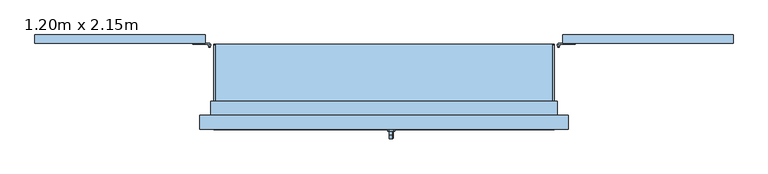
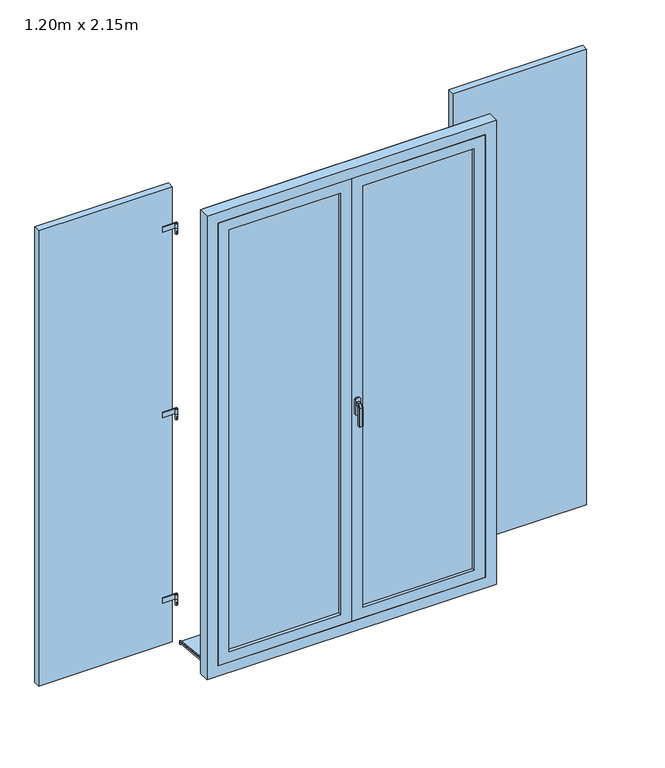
"""IFC4 building model written with IfcOpenShell, lengths in millimetres: window geometry, PF 2 Vantaux droits - Volets et petits bois : 1.20m x 2.15m."""

from ifc_helpers import new_model, si_unit, point, frame, frame_2d, origin, place, context, project, spatial, polyline, circle_curve, trimmed, segment, composite_curve, outline, extrude, faceted_brep, source, transform, mapped, element, save
from ifc_brep_helpers import plane_surface, cylinder_surface, advanced_brep


def window_1_20m_x_2_15m_cfff8fc0(model_context):
    return source(origin(), model_context, "Body", "SolidModel", [
        extrude(outline(polyline([(-1230.0, 158.0), (-1230.0, 188.0), (-630.0, 188.0), (-630.0, 158.0), (-1230.0, 158.0)])), frame((0.0, 0.0, 25.0), z_axis=(0.0, 0.0, 1.0), x_axis=(1.0, 0.0, 0.0)), (0.0, 0.0, 1.0), 2160.0),
        advanced_brep(
        [(-610.0, 153.0, 225.0), (-620.0, 153.0, 225.0), (-610.0, 153.0, 200.0), (-620.0, 153.0, 200.0), (-617.0, 148.4174243, 205.0), (-617.0, 148.4174243, 215.0), (-613.0, 148.4174243, 215.0), (-613.0, 148.4174243, 205.0), (-613.0, 145.0, 215.0), (-617.0, 145.0, 215.0), (-617.0, 145.0, 205.0), (-613.0, 145.0, 205.0)],
        [
            (0, 1, circle_curve(frame((-615.0, 153.0, 225.0), z_axis=(0.0, 0.0, 1.0), x_axis=(-1.0, 0.0, 0.0)), 5.0)),
            (1, 0, circle_curve(frame((-615.0, 153.0, 225.0), z_axis=(0.0, 0.0, 1.0), x_axis=(-1.0, 0.0, 0.0)), 5.0)),
            (2, 3, circle_curve(frame((-615.0, 153.0, 200.0), z_axis=(0.0, 0.0, -1.0), x_axis=(-1.0, 0.0, 0.0)), 5.0)),
            (3, 2, circle_curve(frame((-615.0, 153.0, 200.0), z_axis=(0.0, 0.0, -1.0), x_axis=(-1.0, 0.0, 0.0)), 5.0)),
            (1, 3),
            (2, 0),
            (4, 5),
            (5, 6, circle_curve(frame((-615.0, 153.0, 215.0), z_axis=(0.0, 0.0, 1.0), x_axis=(-1.0, 0.0, 0.0)), 5.0)),
            (6, 7),
            (7, 4, circle_curve(frame((-615.0, 153.0, 205.0), z_axis=(0.0, 0.0, -1.0), x_axis=(-1.0, 0.0, 0.0)), 5.0)),
            (8, 6),
            (5, 9),
            (9, 8),
            (10, 4),
            (7, 11),
            (11, 10),
            (10, 9),
            (8, 11),
        ],
        [
            plane_surface(frame((-620.0, 153.0, 225.0), z_axis=(0.0, 0.0, 1.0), x_axis=(0.0, 1.0, 0.0))),
            plane_surface(frame((-620.0, 153.0, 200.0), z_axis=(0.0, 0.0, -1.0), x_axis=(0.0, -1.0, 0.0))),
            cylinder_surface(frame((-615.0, 153.0, 200.0), z_axis=(0.0, 0.0, 1.0), x_axis=(-1.0, 0.0, 0.0)), 5.0),
            plane_surface(frame((-617.0, 145.0, 215.0), z_axis=(0.0, 0.0, 1.0), x_axis=(0.0, 1.0, 0.0))),
            plane_surface(frame((-617.0, 145.0, 205.0), z_axis=(0.0, 0.0, -1.0), x_axis=(0.0, -1.0, 0.0))),
            plane_surface(frame((-617.0, 145.0, 215.0), z_axis=(-1.0, 0.0, 0.0), x_axis=(0.0, 0.0, -1.0))),
            plane_surface(frame((-613.0, 150.0, 215.0), z_axis=(1.0, 0.0, 0.0), x_axis=(0.0, 0.0, -1.0))),
            plane_surface(frame((-613.0, 145.0, 215.0), z_axis=(0.0, -1.0, 0.0), x_axis=(0.0, 0.0, -1.0))),
        ],
        [
            (0, [[1, 2]]),
            (1, [[3, 4]]),
            (2, [[5, -3, 6, -2], [7, 8, 9, 10]]),
            (2, [[-6, -4, -5, -1]]),
            (3, [[11, -8, 12, 13]]),
            (4, [[14, -10, 15, 16]]),
            (5, [[-12, -7, -14, 17]]),
            (6, [[-15, -9, -11, 18]]),
            (7, [[-17, -16, -18, -13]]),
        ],
    ),
        extrude(outline(composite_curve([segment(trimmed(circle_curve(frame_2d((-615.0, 153.0)), 5.0), [point((-615.0, 158.0))], [point((-620.0, 153.0))], False, "CARTESIAN"), True, "CONTINUOUS"), segment(polyline([(-620.0, 153.0), (-617.5, 153.0)]), True, "CONTINUOUS"), segment(trimmed(circle_curve(frame_2d((-615.0, 153.0)), 2.5), [point((-617.5, 153.0))], [point((-615.0, 155.5))], True, "CARTESIAN"), True, "CONTINUOUS"), segment(polyline([(-615.0, 155.5), (-674.3092325, 155.5), (-674.3092325, 158.0), (-615.0, 158.0)]), True, "CONTINUOUS")], self_intersect=False)), frame((0.0, 0.0, 225.0), z_axis=(0.0, 0.0, 1.0), x_axis=(1.0, 0.0, 0.0)), (0.0, 0.0, 1.0), 25.0),
        extrude(outline(composite_curve([segment(trimmed(circle_curve(frame_2d((-615.0, 153.0)), 2.5), [point((-612.5, 153.0))], [point((-617.5, 153.0))], False, "CARTESIAN"), True, "CONTINUOUS"), segment(trimmed(circle_curve(frame_2d((-615.0, 153.0)), 2.5), [point((-617.5, 153.0))], [point((-612.5, 153.0))], False, "CARTESIAN"), True, "CONTINUOUS")], self_intersect=False)), frame((0.0, 0.0, 225.0), z_axis=(0.0, 0.0, 1.0), x_axis=(1.0, 0.0, 0.0)), (0.0, 0.0, 1.0), 25.0),
        advanced_brep(
        [(-610.0, 153.0, 1985.0), (-620.0, 153.0, 1985.0), (-610.0, 153.0, 1960.0), (-620.0, 153.0, 1960.0), (-613.0, 148.4174243, 1975.0), (-613.0, 148.4174243, 1965.0), (-617.0, 148.4174243, 1965.0), (-617.0, 148.4174243, 1975.0), (-613.0, 145.0, 1975.0), (-617.0, 145.0, 1975.0), (-613.0, 145.0, 1965.0), (-617.0, 145.0, 1965.0)],
        [
            (0, 1, circle_curve(frame((-615.0, 153.0, 1985.0), z_axis=(0.0, 0.0, 1.0), x_axis=(-1.0, 0.0, 0.0)), 5.0)),
            (1, 0, circle_curve(frame((-615.0, 153.0, 1985.0), z_axis=(0.0, 0.0, 1.0), x_axis=(-1.0, 0.0, 0.0)), 5.0)),
            (2, 3, circle_curve(frame((-615.0, 153.0, 1960.0), z_axis=(0.0, 0.0, -1.0), x_axis=(-1.0, 0.0, 0.0)), 5.0)),
            (3, 2, circle_curve(frame((-615.0, 153.0, 1960.0), z_axis=(0.0, 0.0, -1.0), x_axis=(-1.0, 0.0, 0.0)), 5.0)),
            (1, 3),
            (2, 0),
            (4, 5),
            (5, 6, circle_curve(frame((-615.0, 153.0, 1965.0), z_axis=(0.0, 0.0, -1.0), x_axis=(-1.0, 0.0, 0.0)), 5.0)),
            (6, 7),
            (7, 4, circle_curve(frame((-615.0, 153.0, 1975.0), z_axis=(0.0, 0.0, 1.0), x_axis=(-1.0, 0.0, 0.0)), 5.0)),
            (8, 4),
            (7, 9),
            (9, 8),
            (10, 11),
            (11, 6),
            (5, 10),
            (9, 11),
            (10, 8),
        ],
        [
            plane_surface(frame((-620.0, 153.0, 1985.0), z_axis=(0.0, 0.0, 1.0), x_axis=(0.0, 1.0, 0.0))),
            plane_surface(frame((-620.0, 153.0, 1960.0), z_axis=(0.0, 0.0, -1.0), x_axis=(0.0, -1.0, 0.0))),
            cylinder_surface(frame((-615.0, 153.0, 1960.0), z_axis=(0.0, 0.0, 1.0), x_axis=(-1.0, 0.0, 0.0)), 5.0),
            plane_surface(frame((-613.0, 145.0, 1975.0), z_axis=(0.0, 0.0, 1.0), x_axis=(-1.0, 0.0, 0.0))),
            plane_surface(frame((-613.0, 145.0, 1965.0), z_axis=(0.0, 0.0, -1.0), x_axis=(1.0, 0.0, 0.0))),
            plane_surface(frame((-613.0, 145.0, 1975.0), z_axis=(0.0, -1.0, 0.0), x_axis=(0.0, 0.0, -1.0))),
            plane_surface(frame((-617.0, 145.0, 1975.0), z_axis=(-1.0, 0.0, 0.0), x_axis=(0.0, 0.0, -1.0))),
            plane_surface(frame((-613.0, 148.4174243, 1975.0), z_axis=(1.0, 0.0, 0.0), x_axis=(0.0, 0.0, -1.0))),
        ],
        [
            (0, [[1, 2]]),
            (1, [[3, 4]]),
            (2, [[5, -3, 6, -2], [7, 8, 9, 10]]),
            (2, [[-6, -4, -5, -1]]),
            (3, [[11, -10, 12, 13]]),
            (4, [[14, 15, -8, 16]]),
            (5, [[17, -14, 18, -13]]),
            (6, [[-9, -15, -17, -12]]),
            (7, [[-18, -16, -7, -11]]),
        ],
    ),
        extrude(outline(polyline([(-613.0, 145.0), (-617.0, 145.0), (-617.0, 148.4174243), (-613.0, 148.4174243), (-613.0, 145.0)])), frame((0.0, 0.0, 1085.0), z_axis=(0.0, 0.0, 1.0), x_axis=(1.0, 0.0, 0.0)), (0.0, 0.0, 1.0), 10.0),
        extrude(outline(composite_curve([segment(trimmed(circle_curve(frame_2d((-615.0, 153.0)), 5.0), [point((-615.0, 158.0))], [point((-620.0, 153.0))], False, "CARTESIAN"), True, "CONTINUOUS"), segment(polyline([(-620.0, 153.0), (-617.5, 153.0)]), True, "CONTINUOUS"), segment(trimmed(circle_curve(frame_2d((-615.0, 153.0)), 2.5), [point((-617.5, 153.0))], [point((-612.5, 153.0))], True, "CARTESIAN"), True, "CONTINUOUS"), segment(trimmed(circle_curve(frame_2d((-615.0, 153.0)), 2.5), [point((-612.5, 153.0))], [point((-615.0, 155.5))], True, "CARTESIAN"), True, "CONTINUOUS"), segment(polyline([(-615.0, 155.5), (-674.3092325, 155.5), (-674.3092325, 158.0), (-615.0, 158.0)]), True, "CONTINUOUS")], self_intersect=False)), frame((0.0, 0.0, 1105.0), z_axis=(0.0, 0.0, 1.0), x_axis=(1.0, 0.0, 0.0)), (0.0, 0.0, 1.0), 25.0),
        extrude(outline(composite_curve([segment(trimmed(circle_curve(frame_2d((-615.0, 153.0)), 2.5), [point((-612.5, 153.0))], [point((-617.5, 153.0))], False, "CARTESIAN"), True, "CONTINUOUS"), segment(trimmed(circle_curve(frame_2d((-615.0, 153.0)), 2.5), [point((-617.5, 153.0))], [point((-612.5, 153.0))], False, "CARTESIAN"), True, "CONTINUOUS")], self_intersect=False)), frame((0.0, 0.0, 1105.0), z_axis=(0.0, 0.0, 1.0), x_axis=(1.0, 0.0, 0.0)), (0.0, 0.0, 1.0), 25.0),
        extrude(outline(composite_curve([segment(trimmed(circle_curve(frame_2d((-615.0, 153.0)), 5.0), [point((-610.0, 153.0))], [point((-620.0, 153.0))], False, "CARTESIAN"), True, "CONTINUOUS"), segment(trimmed(circle_curve(frame_2d((-615.0, 153.0)), 5.0), [point((-620.0, 153.0))], [point((-610.0, 153.0))], False, "CARTESIAN"), True, "CONTINUOUS")], self_intersect=False)), frame((0.0, 0.0, 1080.0), z_axis=(0.0, 0.0, 1.0), x_axis=(1.0, 0.0, 0.0)), (0.0, 0.0, 1.0), 25.0),
        extrude(outline(composite_curve([segment(trimmed(circle_curve(frame_2d((-615.0, 153.0)), 5.0), [point((-615.0, 158.0))], [point((-620.0, 153.0))], False, "CARTESIAN"), True, "CONTINUOUS"), segment(polyline([(-620.0, 153.0), (-617.5, 153.0)]), True, "CONTINUOUS"), segment(trimmed(circle_curve(frame_2d((-615.0, 153.0)), 2.5), [point((-617.5, 153.0))], [point((-615.0, 155.5))], True, "CARTESIAN"), True, "CONTINUOUS"), segment(polyline([(-615.0, 155.5), (-674.3092325, 155.5), (-674.3092325, 158.0), (-615.0, 158.0)]), True, "CONTINUOUS")], self_intersect=False)), frame((0.0, 0.0, 1985.0), z_axis=(0.0, 0.0, 1.0), x_axis=(1.0, 0.0, 0.0)), (0.0, 0.0, 1.0), 25.0),
        extrude(outline(composite_curve([segment(trimmed(circle_curve(frame_2d((-615.0, 153.0)), 2.5), [point((-612.5, 153.0))], [point((-617.5, 153.0))], False, "CARTESIAN"), True, "CONTINUOUS"), segment(trimmed(circle_curve(frame_2d((-615.0, 153.0)), 2.5), [point((-617.5, 153.0))], [point((-612.5, 153.0))], False, "CARTESIAN"), True, "CONTINUOUS")], self_intersect=False)), frame((0.0, 0.0, 1985.0), z_axis=(0.0, 0.0, 1.0), x_axis=(1.0, 0.0, 0.0)), (0.0, 0.0, 1.0), 25.0),
        extrude(outline(polyline([(1230.0, 158.0), (630.0, 158.0), (630.0, 188.0), (1230.0, 188.0), (1230.0, 158.0)])), frame((0.0, 0.0, 25.0), z_axis=(0.0, 0.0, 1.0), x_axis=(1.0, 0.0, 0.0)), (0.0, 0.0, 1.0), 2160.0),
        advanced_brep(
        [(610.0, 153.0, 225.0), (620.0, 153.0, 225.0), (610.0, 153.0, 200.0), (620.0, 153.0, 200.0), (617.0, 148.4174243, 205.0), (613.0, 148.4174243, 205.0), (613.0, 148.4174243, 215.0), (617.0, 148.4174243, 215.0), (613.0, 145.0, 215.0), (617.0, 145.0, 215.0), (617.0, 145.0, 205.0), (613.0, 145.0, 205.0)],
        [
            (0, 1, circle_curve(frame((615.0, 153.0, 225.0), z_axis=(0.0, 0.0, 1.0), x_axis=(1.0, 0.0, 0.0)), 5.0)),
            (1, 0, circle_curve(frame((615.0, 153.0, 225.0), z_axis=(0.0, 0.0, 1.0), x_axis=(1.0, 0.0, 0.0)), 5.0)),
            (2, 3, circle_curve(frame((615.0, 153.0, 200.0), z_axis=(0.0, 0.0, -1.0), x_axis=(1.0, 0.0, 0.0)), 5.0)),
            (3, 2, circle_curve(frame((615.0, 153.0, 200.0), z_axis=(0.0, 0.0, -1.0), x_axis=(1.0, 0.0, 0.0)), 5.0)),
            (0, 2),
            (3, 1),
            (4, 5, circle_curve(frame((615.0, 153.0, 205.0), z_axis=(0.0, 0.0, -1.0), x_axis=(1.0, 0.0, 0.0)), 5.0)),
            (5, 6),
            (6, 7, circle_curve(frame((615.0, 153.0, 215.0), z_axis=(0.0, 0.0, 1.0), x_axis=(1.0, 0.0, 0.0)), 5.0)),
            (7, 4),
            (8, 9),
            (9, 7),
            (6, 8),
            (10, 11),
            (11, 5),
            (4, 10),
            (9, 10),
            (11, 8),
        ],
        [
            plane_surface(frame((620.0, 153.0, 225.0), z_axis=(0.0, 0.0, 1.0), x_axis=(0.0, 1.0, 0.0))),
            plane_surface(frame((620.0, 153.0, 200.0), z_axis=(0.0, 0.0, -1.0), x_axis=(0.0, -1.0, 0.0))),
            cylinder_surface(frame((615.0, 153.0, 200.0), z_axis=(0.0, 0.0, 1.0), x_axis=(1.0, 0.0, 0.0)), 5.0),
            plane_surface(frame((617.0, 145.0, 215.0), z_axis=(0.0, 0.0, 1.0), x_axis=(0.0, 1.0, 0.0))),
            plane_surface(frame((617.0, 145.0, 205.0), z_axis=(0.0, 0.0, -1.0), x_axis=(0.0, -1.0, 0.0))),
            plane_surface(frame((617.0, 145.0, 215.0), z_axis=(1.0, 0.0, 0.0), x_axis=(0.0, 0.0, -1.0))),
            plane_surface(frame((613.0, 150.0, 215.0), z_axis=(-1.0, 0.0, 0.0), x_axis=(0.0, 0.0, -1.0))),
            plane_surface(frame((613.0, 145.0, 215.0), z_axis=(0.0, -1.0, 0.0), x_axis=(0.0, 0.0, -1.0))),
        ],
        [
            (0, [[1, 2]]),
            (1, [[3, 4]]),
            (2, [[-1, 5, -4, 6], [7, 8, 9, 10]]),
            (2, [[-2, -6, -3, -5]]),
            (3, [[11, 12, -9, 13]]),
            (4, [[14, 15, -7, 16]]),
            (5, [[17, -16, -10, -12]]),
            (6, [[18, -13, -8, -15]]),
            (7, [[-11, -18, -14, -17]]),
        ],
    ),
        extrude(outline(composite_curve([segment(polyline([(615.0, 158.0), (674.3092325, 158.0), (674.3092325, 155.5), (615.0, 155.5)]), True, "CONTINUOUS"), segment(trimmed(circle_curve(frame_2d((615.0, 153.0)), 2.5), [point((615.0, 155.5))], [point((617.5, 153.0))], True, "CARTESIAN"), True, "CONTINUOUS"), segment(polyline([(617.5, 153.0), (620.0, 153.0)]), True, "CONTINUOUS"), segment(trimmed(circle_curve(frame_2d((615.0, 153.0)), 5.0), [point((620.0, 153.0))], [point((615.0, 158.0))], False, "CARTESIAN"), True, "CONTINUOUS")], self_intersect=False)), frame((0.0, 0.0, 225.0), z_axis=(0.0, 0.0, 1.0), x_axis=(1.0, 0.0, 0.0)), (0.0, 0.0, 1.0), 25.0),
        extrude(outline(composite_curve([segment(trimmed(circle_curve(frame_2d((615.0, 153.0)), 2.5), [point((612.5, 153.0))], [point((617.5, 153.0))], False, "CARTESIAN"), True, "CONTINUOUS"), segment(trimmed(circle_curve(frame_2d((615.0, 153.0)), 2.5), [point((617.5, 153.0))], [point((612.5, 153.0))], False, "CARTESIAN"), True, "CONTINUOUS")], self_intersect=False)), frame((0.0, 0.0, 225.0), z_axis=(0.0, 0.0, 1.0), x_axis=(1.0, 0.0, 0.0)), (0.0, 0.0, 1.0), 25.0),
        advanced_brep(
        [(610.0, 153.0, 1985.0), (620.0, 153.0, 1985.0), (610.0, 153.0, 1960.0), (620.0, 153.0, 1960.0), (613.0, 148.4174243, 1975.0), (617.0, 148.4174243, 1975.0), (617.0, 148.4174243, 1965.0), (613.0, 148.4174243, 1965.0), (613.0, 145.0, 1975.0), (617.0, 145.0, 1975.0), (613.0, 145.0, 1965.0), (617.0, 145.0, 1965.0)],
        [
            (0, 1, circle_curve(frame((615.0, 153.0, 1985.0), z_axis=(0.0, 0.0, 1.0), x_axis=(1.0, 0.0, 0.0)), 5.0)),
            (1, 0, circle_curve(frame((615.0, 153.0, 1985.0), z_axis=(0.0, 0.0, 1.0), x_axis=(1.0, 0.0, 0.0)), 5.0)),
            (2, 3, circle_curve(frame((615.0, 153.0, 1960.0), z_axis=(0.0, 0.0, -1.0), x_axis=(1.0, 0.0, 0.0)), 5.0)),
            (3, 2, circle_curve(frame((615.0, 153.0, 1960.0), z_axis=(0.0, 0.0, -1.0), x_axis=(1.0, 0.0, 0.0)), 5.0)),
            (0, 2),
            (3, 1),
            (4, 5, circle_curve(frame((615.0, 153.0, 1975.0), z_axis=(0.0, 0.0, 1.0), x_axis=(1.0, 0.0, 0.0)), 5.0)),
            (5, 6),
            (6, 7, circle_curve(frame((615.0, 153.0, 1965.0), z_axis=(0.0, 0.0, -1.0), x_axis=(1.0, 0.0, 0.0)), 5.0)),
            (7, 4),
            (8, 9),
            (9, 5),
            (4, 8),
            (10, 7),
            (6, 11),
            (11, 10),
            (8, 10),
            (11, 9),
        ],
        [
            plane_surface(frame((620.0, 153.0, 1985.0), z_axis=(0.0, 0.0, 1.0), x_axis=(0.0, 1.0, 0.0))),
            plane_surface(frame((620.0, 153.0, 1960.0), z_axis=(0.0, 0.0, -1.0), x_axis=(0.0, -1.0, 0.0))),
            cylinder_surface(frame((615.0, 153.0, 1960.0), z_axis=(0.0, 0.0, 1.0), x_axis=(1.0, 0.0, 0.0)), 5.0),
            plane_surface(frame((613.0, 145.0, 1975.0), z_axis=(0.0, 0.0, 1.0), x_axis=(1.0, 0.0, 0.0))),
            plane_surface(frame((613.0, 145.0, 1965.0), z_axis=(0.0, 0.0, -1.0), x_axis=(-1.0, 0.0, 0.0))),
            plane_surface(frame((613.0, 145.0, 1975.0), z_axis=(0.0, -1.0, 0.0), x_axis=(0.0, 0.0, -1.0))),
            plane_surface(frame((617.0, 145.0, 1975.0), z_axis=(1.0, 0.0, 0.0), x_axis=(0.0, 0.0, -1.0))),
            plane_surface(frame((613.0, 148.4174243, 1975.0), z_axis=(-1.0, 0.0, 0.0), x_axis=(0.0, 0.0, -1.0))),
        ],
        [
            (0, [[1, 2]]),
            (1, [[3, 4]]),
            (2, [[-1, 5, -4, 6], [7, 8, 9, 10]]),
            (2, [[-2, -6, -3, -5]]),
            (3, [[11, 12, -7, 13]]),
            (4, [[14, -9, 15, 16]]),
            (5, [[-11, 17, -16, 18]]),
            (6, [[-12, -18, -15, -8]]),
            (7, [[-13, -10, -14, -17]]),
        ],
    ),
        extrude(outline(polyline([(613.0, 145.0), (613.0, 148.4174243), (617.0, 148.4174243), (617.0, 145.0), (613.0, 145.0)])), frame((0.0, 0.0, 1085.0), z_axis=(0.0, 0.0, 1.0), x_axis=(1.0, 0.0, 0.0)), (0.0, 0.0, 1.0), 10.0),
        extrude(outline(composite_curve([segment(polyline([(615.0, 158.0), (674.3092325, 158.0), (674.3092325, 155.5), (615.0, 155.5)]), True, "CONTINUOUS"), segment(trimmed(circle_curve(frame_2d((615.0, 153.0)), 2.5), [point((615.0, 155.5))], [point((612.5, 153.0))], True, "CARTESIAN"), True, "CONTINUOUS"), segment(trimmed(circle_curve(frame_2d((615.0, 153.0)), 2.5), [point((612.5, 153.0))], [point((617.5, 153.0))], True, "CARTESIAN"), True, "CONTINUOUS"), segment(polyline([(617.5, 153.0), (620.0, 153.0)]), True, "CONTINUOUS"), segment(trimmed(circle_curve(frame_2d((615.0, 153.0)), 5.0), [point((620.0, 153.0))], [point((615.0, 158.0))], False, "CARTESIAN"), True, "CONTINUOUS")], self_intersect=False)), frame((0.0, 0.0, 1105.0), z_axis=(0.0, 0.0, 1.0), x_axis=(1.0, 0.0, 0.0)), (0.0, 0.0, 1.0), 25.0),
        extrude(outline(composite_curve([segment(trimmed(circle_curve(frame_2d((615.0, 153.0)), 2.5), [point((612.5, 153.0))], [point((617.5, 153.0))], False, "CARTESIAN"), True, "CONTINUOUS"), segment(trimmed(circle_curve(frame_2d((615.0, 153.0)), 2.5), [point((617.5, 153.0))], [point((612.5, 153.0))], False, "CARTESIAN"), True, "CONTINUOUS")], self_intersect=False)), frame((0.0, 0.0, 1105.0), z_axis=(0.0, 0.0, 1.0), x_axis=(1.0, 0.0, 0.0)), (0.0, 0.0, 1.0), 25.0),
        extrude(outline(composite_curve([segment(trimmed(circle_curve(frame_2d((615.0, 153.0)), 5.0), [point((610.0, 153.0))], [point((620.0, 153.0))], False, "CARTESIAN"), True, "CONTINUOUS"), segment(trimmed(circle_curve(frame_2d((615.0, 153.0)), 5.0), [point((620.0, 153.0))], [point((610.0, 153.0))], False, "CARTESIAN"), True, "CONTINUOUS")], self_intersect=False)), frame((0.0, 0.0, 1080.0), z_axis=(0.0, 0.0, 1.0), x_axis=(1.0, 0.0, 0.0)), (0.0, 0.0, 1.0), 25.0),
        extrude(outline(composite_curve([segment(polyline([(615.0, 158.0), (674.3092325, 158.0), (674.3092325, 155.5), (615.0, 155.5)]), True, "CONTINUOUS"), segment(trimmed(circle_curve(frame_2d((615.0, 153.0)), 2.5), [point((615.0, 155.5))], [point((617.5, 153.0))], True, "CARTESIAN"), True, "CONTINUOUS"), segment(polyline([(617.5, 153.0), (620.0, 153.0)]), True, "CONTINUOUS"), segment(trimmed(circle_curve(frame_2d((615.0, 153.0)), 5.0), [point((620.0, 153.0))], [point((615.0, 158.0))], False, "CARTESIAN"), True, "CONTINUOUS")], self_intersect=False)), frame((0.0, 0.0, 1985.0), z_axis=(0.0, 0.0, 1.0), x_axis=(1.0, 0.0, 0.0)), (0.0, 0.0, 1.0), 25.0),
        extrude(outline(composite_curve([segment(trimmed(circle_curve(frame_2d((615.0, 153.0)), 2.5), [point((612.5, 153.0))], [point((617.5, 153.0))], False, "CARTESIAN"), True, "CONTINUOUS"), segment(trimmed(circle_curve(frame_2d((615.0, 153.0)), 2.5), [point((617.5, 153.0))], [point((612.5, 153.0))], False, "CARTESIAN"), True, "CONTINUOUS")], self_intersect=False)), frame((0.0, 0.0, 1985.0), z_axis=(0.0, 0.0, 1.0), x_axis=(1.0, 0.0, 0.0)), (0.0, 0.0, 1.0), 25.0),
        faceted_brep([(30.6460097, -151.0, 1122.0339292), (32.0339292, -151.0, 1120.6460097), (32.0339292, -151.0, 1109.3323012), (30.6676988, -151.0, 1107.9660708), (19.3323012, -151.0, 1107.9660708), (17.9660708, -151.0, 1109.3323012), (17.9660708, -151.0, 1120.6460097), (19.3539903, -151.0, 1122.0339292), (30.6460097, -163.9135489, 1122.0339292), (32.0339292, -163.3386538, 1120.6460097), (32.0339292, -176.6460097, 1107.3386538), (32.0339292, -176.6460097, 1020.0), (32.0339292, -165.3323012, 1020.0), (32.0339292, -165.3323012, 1102.6523623), (32.0339292, -158.6523623, 1109.3323012), (30.6676988, -158.0864511, 1107.9660708), (19.3323012, -158.0864511, 1107.9660708), (17.9660708, -158.6523623, 1109.3323012), (17.9660708, -165.3323012, 1102.6523623), (17.9660708, -165.3323012, 1020.0), (17.9660708, -176.6460097, 1020.0), (17.9660708, -176.6460097, 1107.3386538), (17.9660708, -163.3386538, 1120.6460097), (19.3539903, -163.9135489, 1122.0339292), (30.6460097, -178.0339292, 1107.9135489), (30.6676988, -163.9660708, 1102.0864511), (19.3323012, -163.9660708, 1102.0864511), (19.3539903, -178.0339292, 1107.9135489), (30.6460097, -178.0339292, 1020.0), (19.3539903, -178.0339292, 1020.0), (19.3323012, -163.9660708, 1020.0), (30.6676988, -163.9660708, 1020.0)], [[[0, 1, 2, 3, 4, 5, 6, 7]], [[1, 0, 8, 9]], [[2, 1, 9, 10, 11, 12, 13, 14]], [[3, 2, 14, 15]], [[4, 3, 15, 16]], [[5, 4, 16, 17]], [[6, 5, 17, 18, 19, 20, 21, 22]], [[7, 6, 22, 23]], [[0, 7, 23, 8]], [[9, 8, 24, 10]], [[15, 14, 13, 25]], [[16, 15, 25, 26]], [[17, 16, 26, 18]], [[23, 22, 21, 27]], [[8, 23, 27, 24]], [[28, 29, 20, 19, 30, 31, 12, 11]], [[10, 24, 28, 11]], [[25, 13, 12, 31]], [[26, 25, 31, 30]], [[18, 26, 30, 19]], [[27, 21, 20, 29]], [[24, 27, 29, 28]]]),
        extrude(outline(polyline([(1140.0, 32.0), (1140.0, 18.0), (1135.0, 13.0), (1065.0, 13.0), (1060.0, 18.0), (1060.0, 32.0), (1065.0, 37.0), (1135.0, 37.0), (1140.0, 32.0)])), frame((0.0, -151.0, 0.0), z_axis=(0.0, 1.0, 0.0), x_axis=(0.0, 0.0, 1.0)), (0.0, 0.0, 1.0), 6.0),
        extrude(outline(polyline([(155.0288776, 17.1292448), (155.0288776, 6.0510424), (150.0288776, 6.5765635), (150.0288776, 12.3995543), (-65.0, 35.0), (-65.0, 50.0), (-60.0, 50.0), (-60.0, 39.7296906), (155.0288776, 17.1292448)])), frame((-600.0, 0.0, 0.0), z_axis=(1.0, 0.0, 0.0), x_axis=(0.0, 1.0, 0.0)), (0.0, 0.0, 1.0), 1200.0),
        extrude(outline(composite_curve([segment(polyline([(155.0288776, 17.1292448), (-60.0, 39.7296906), (-60.0, 44.757232), (151.4469915, 22.5332576)]), True, "CONTINUOUS"), segment(trimmed(circle_curve(frame_2d((151.0288776, 18.5551701)), 4.0), [point((151.4469915, 22.5332576))], [point((155.0288776, 18.5551701))], False, "CARTESIAN"), True, "CONTINUOUS"), segment(polyline([(155.0288776, 18.5551701), (155.0288776, 17.1292448)]), True, "CONTINUOUS")], self_intersect=False)), frame((-600.0, 0.0, 0.0), z_axis=(1.0, 0.0, 0.0), x_axis=(0.0, 1.0, 0.0)), (0.0, 0.0, 1.0), 5.0),
        extrude(outline(composite_curve([segment(polyline([(155.0288776, 17.1292448), (-60.0, 39.7296906), (-60.0, 44.757232), (151.4469915, 22.5332576)]), True, "CONTINUOUS"), segment(trimmed(circle_curve(frame_2d((151.0288776, 18.5551701)), 4.0), [point((151.4469915, 22.5332576))], [point((155.0288776, 18.5551701))], False, "CARTESIAN"), True, "CONTINUOUS"), segment(polyline([(155.0288776, 18.5551701), (155.0288776, 17.1292448)]), True, "CONTINUOUS")], self_intersect=False)), frame((595.0, 0.0, 0.0), z_axis=(1.0, 0.0, 0.0), x_axis=(0.0, 1.0, 0.0)), (0.0, 0.0, 1.0), 5.0),
        extrude(outline(polyline([(85.0, 0.0), (2185.0, 0.0), (2185.0, -600.0), (85.0, -600.0), (85.0, 0.0)]), holes=[polyline([(135.0, -550.0), (2135.0, -550.0), (2135.0, -50.0), (135.0, -50.0), (135.0, -550.0)])]), frame((0.0, -145.0, 0.0), z_axis=(0.0, 1.0, 0.0), x_axis=(0.0, 0.0, 1.0)), (0.0, 0.0, 1.0), 40.0),
        extrude(outline(polyline([(50.0, -119.0), (550.0, -119.0), (550.0, -131.0), (50.0, -131.0), (50.0, -119.0)])), frame((0.0, 0.0, 135.0), z_axis=(0.0, 0.0, 1.0), x_axis=(1.0, 0.0, 0.0)), (0.0, 0.0, 1.0), 2000.0),
        extrude(outline(polyline([(-550.0, -119.0), (-50.0, -119.0), (-50.0, -131.0), (-550.0, -131.0), (-550.0, -119.0)])), frame((0.0, 0.0, 135.0), z_axis=(0.0, 0.0, 1.0), x_axis=(1.0, 0.0, 0.0)), (0.0, 0.0, 1.0), 2000.0),
        extrude(outline(polyline([(85.0, 600.0), (2185.0, 600.0), (2185.0, 0.0), (85.0, 0.0), (85.0, 600.0)]), holes=[polyline([(135.0, 50.0), (2135.0, 50.0), (2135.0, 550.0), (135.0, 550.0), (135.0, 50.0)])]), frame((0.0, -145.0, 0.0), z_axis=(0.0, 1.0, 0.0), x_axis=(0.0, 0.0, 1.0)), (0.0, 0.0, 1.0), 40.0),
        faceted_brep([(-650.0, -145.0, 35.0), (-650.0, -95.0, 35.0), (-600.0, -95.0, 35.0), (-600.0, -65.0, 35.0), (600.0, -65.0, 35.0), (600.0, -95.0, 35.0), (650.0, -95.0, 35.0), (650.0, -145.0, 35.0), (-650.0, -145.0, 2235.0), (-650.0, -95.0, 2235.0), (650.0, -95.0, 2235.0), (600.0, -95.0, 74.3761425), (-600.0, -95.0, 74.3761425), (-585.0, -95.0, 2170.0), (-585.0, -95.0, 100.0), (585.0, -95.0, 100.0), (585.0, -95.0, 2170.0), (-600.0, -45.0, 60.9786829), (-600.0, -45.0, 45.0), (-600.0, -55.0, 45.0), (-600.0, -55.0, 50.0), (-600.0, -65.0, 50.0), (600.0, -65.0, 50.0), (600.0, -55.0, 50.0), (600.0, -55.0, 45.0), (600.0, -45.0, 45.0), (600.0, -45.0, 60.9786829), (650.0, -145.0, 2235.0), (600.0, -145.0, 2185.0), (600.0, -145.0, 85.0), (-600.0, -145.0, 85.0), (-600.0, -145.0, 2185.0), (-585.0, -105.0, 2170.0), (-585.0, -105.0, 100.0), (585.0, -105.0, 100.0), (585.0, -105.0, 2170.0), (600.0, -105.0, 2185.0), (-600.0, -105.0, 2185.0), (-600.0, -105.0, 85.0), (600.0, -105.0, 85.0)], [[[0, 1, 2, 3, 4, 5, 6, 7]], [[1, 0, 8, 9]], [[1, 9, 10, 6, 5, 11, 12, 2], [13, 14, 15, 16]], [[12, 17, 18, 19, 20, 21, 3, 2]], [[3, 21, 22, 4]], [[4, 22, 23, 24, 25, 26, 11, 5]], [[6, 10, 27, 7]], [[0, 7, 27, 8], [28, 29, 30, 31]], [[13, 32, 33, 14]], [[33, 34, 15, 14]], [[35, 16, 15, 34]], [[17, 12, 11, 26]], [[36, 37, 38, 39], [32, 35, 34, 33]], [[38, 37, 31, 30]], [[30, 29, 39, 38]], [[28, 36, 39, 29]], [[18, 17, 26, 25]], [[19, 18, 25, 24]], [[20, 19, 24, 23]], [[21, 20, 23, 22]], [[13, 16, 35, 32]], [[37, 36, 28, 31]], [[10, 9, 8, 27]]]),
        extrude(outline(polyline([(35.0, -610.0), (35.0, -600.0), (2185.0, -600.0), (2185.0, 600.0), (35.0, 600.0), (35.0, 610.0), (2195.0, 610.0), (2195.0, -610.0), (35.0, -610.0)])), frame((0.0, -95.0, 0.0), z_axis=(0.0, 1.0, 0.0), x_axis=(0.0, 0.0, 1.0)), (0.0, 0.0, 1.0), 50.0),
        extrude(outline(polyline([(20.0, -97.0), (20.0, -105.0), (-20.0, -105.0), (-20.0, -97.0), (20.0, -97.0)])), frame((0.0, 0.0, 100.0), z_axis=(0.0, 0.0, 1.0), x_axis=(1.0, 0.0, 0.0)), (0.0, 0.0, 1.0), 2070.0),
    ])


if __name__ == "__main__":
    model = new_model("IFC4")
    model_context = context("Model", 3, world=origin())
    ifc_project = project(units=[si_unit("LENGTHUNIT", "METRE", prefix="MILLI")], contexts=[model_context])
    site = spatial("IfcSite", under=ifc_project)
    building = spatial("IfcBuilding", under=site)
    placement = place(None, origin())
    window_1_20m_x_2_15m_shape = window_1_20m_x_2_15m_cfff8fc0(model_context)
    element("IfcWindow", 1, ObjectType="PF 2 Vantaux droits - Volets et petits bois : 1.20m x 2.15m", at=placement, inside=building, context=model_context, shape_type="MappedRepresentation", body=[
        mapped(window_1_20m_x_2_15m_shape, transform((0.0, 0.0, 0.0), x_axis=(1.0, 0.0, 0.0), y_axis=(0.0, 1.0, 0.0), z_axis=(0.0, 0.0, 1.0))),
    ])
    save(model, "model.ifc")
